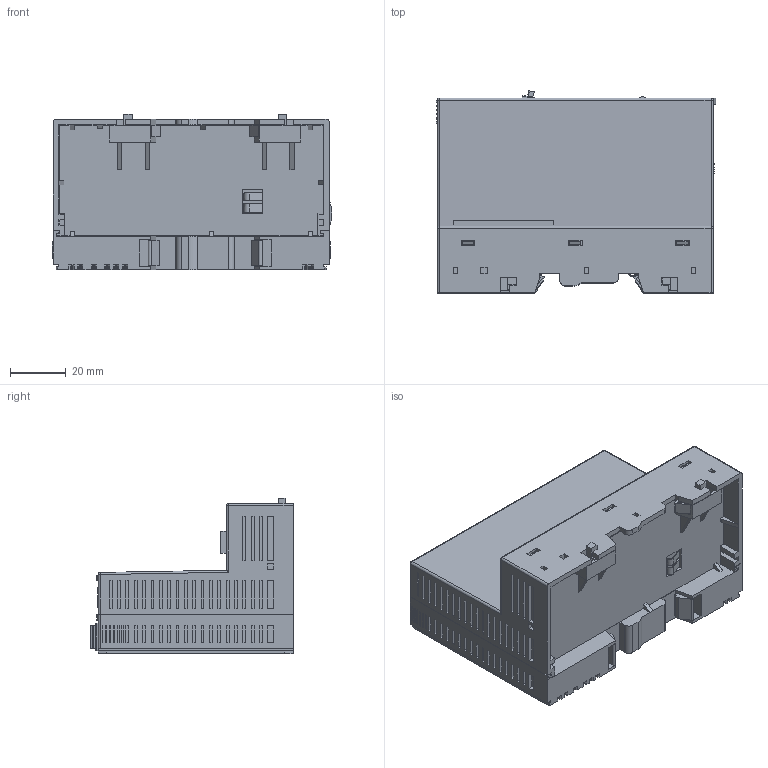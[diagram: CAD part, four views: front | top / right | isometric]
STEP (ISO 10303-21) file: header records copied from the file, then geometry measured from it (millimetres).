
FILE_DESCRIPTION((''),'2;1');
FILE_NAME('FNIO-NA-9261_2','2016-03-24T',('Dongwoo'),(''),'PRO/ENGINEER BY PARAMETRIC TECHNOLOGY CORPORATION, 2006170','PRO/ENGINEER BY PARAMETRIC TECHNOLOGY CORPORATION, 2006170','');
FILE_SCHEMA(('CONFIG_CONTROL_DESIGN'));
Length unit declared in the file: millimetre
Products named in the file (1): FNIO-NA-9261_2
Bounding box: 100.36 x 72.6 x 55.8 mm (x, y, z)
Volume: 224066.8 mm3; surface area: 56333.7 mm2
Topology: 2 solids, 2 shells, 2274 faces, 6143 edges, 4040 vertices
Faces by surface type: plane 2086, cylinder 155, cone 21, sphere 12
Entity records: 70154 total; most frequent: CARTESIAN_POINT 12560, ORIENTED_EDGE 12286, DIRECTION 11003, EDGE_CURVE 6143, VECTOR 5791, LINE 5791, VERTEX_POINT 4040, AXIS2_PLACEMENT_3D 2606
